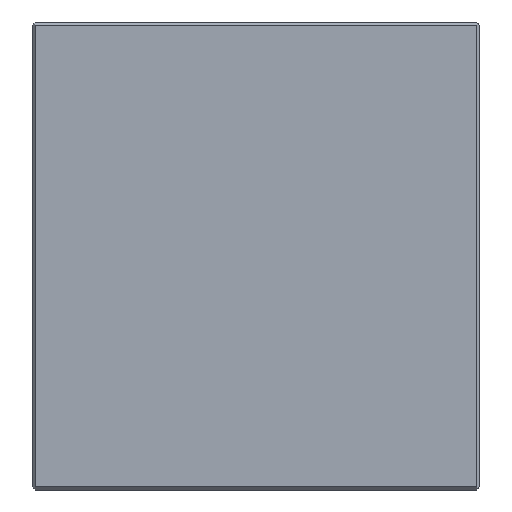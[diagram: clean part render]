
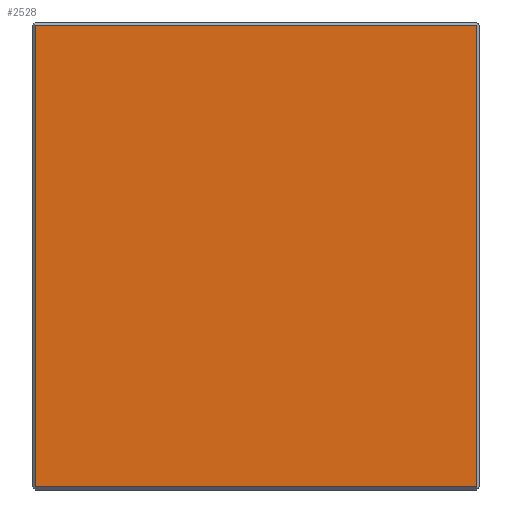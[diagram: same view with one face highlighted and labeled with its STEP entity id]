
A CAD part, left-side view. The second image highlights one B-rep face of the part: STEP entity #2528.
In plain terms, the highlighted planar face has unit normal (-1, 0, 0).
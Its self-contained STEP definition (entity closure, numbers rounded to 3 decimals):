
#952=DIRECTION('',(0.,-1.,0.));
#953=VECTOR('',#952,66.);
#954=CARTESIAN_POINT('',(-48.,33.,-0.5));
#955=LINE('',#954,#953);
#956=DIRECTION('',(0.,0.,-1.));
#957=VECTOR('',#956,69.);
#958=CARTESIAN_POINT('',(-48.,-33.,-0.5));
#959=LINE('',#958,#957);
#960=DIRECTION('',(0.,1.,0.));
#961=VECTOR('',#960,66.);
#962=CARTESIAN_POINT('',(-48.,-33.,-69.5));
#963=LINE('',#962,#961);
#964=DIRECTION('',(0.,0.,-1.));
#965=VECTOR('',#964,69.);
#966=CARTESIAN_POINT('',(-48.,33.,-0.5));
#967=LINE('',#966,#965);
#1202=CARTESIAN_POINT('',(-48.,33.,-0.5));
#1203=CARTESIAN_POINT('',(-48.,-33.,-0.5));
#1204=VERTEX_POINT('',#1202);
#1205=VERTEX_POINT('',#1203);
#1206=CARTESIAN_POINT('',(-48.,-33.,-69.5));
#1207=VERTEX_POINT('',#1206);
#1216=CARTESIAN_POINT('',(-48.,33.,-69.5));
#1217=VERTEX_POINT('',#1216);
#2515=CARTESIAN_POINT('',(-48.,0.,-70.));
#2516=DIRECTION('',(-1.,0.,0.));
#2517=DIRECTION('',(0.,0.,1.));
#2518=AXIS2_PLACEMENT_3D('',#2515,#2516,#2517);
#2519=PLANE('',#2518);
#2521=ORIENTED_EDGE('',*,*,#2520,.T.);
#2522=ORIENTED_EDGE('',*,*,#2502,.T.);
#2524=ORIENTED_EDGE('',*,*,#2523,.T.);
#2525=ORIENTED_EDGE('',*,*,#1745,.F.);
#2526=EDGE_LOOP('',(#2521,#2522,#2524,#2525));
#2527=FACE_OUTER_BOUND('',#2526,.F.);
#1745=EDGE_CURVE('',#1204,#1217,#967,.T.);
#2502=EDGE_CURVE('',#1205,#1207,#959,.T.);
#2520=EDGE_CURVE('',#1204,#1205,#955,.T.);
#2523=EDGE_CURVE('',#1207,#1217,#963,.T.);
#2528=ADVANCED_FACE('',(#2527),#2519,.T.);
